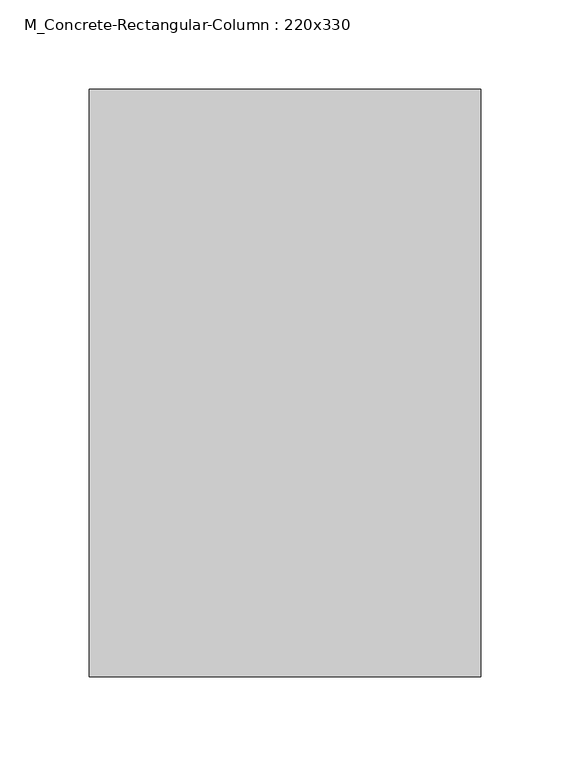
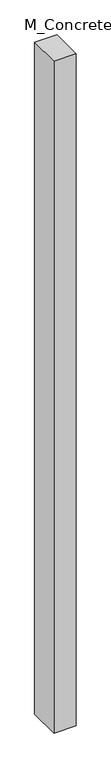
"""IFC4 building model written with IfcOpenShell, lengths in millimetres: column geometry, M_Concrete-Rectangular-Column : 220x330."""

from ifc_helpers import new_model, si_unit, frame, origin, place, context, project, spatial, polyline, outline, extrude, source, transform, mapped, element, save


def m_concrete_rectangular_column_220x330_e0f7005e(model_context):
    return source(origin(), model_context, "Body", "SweptSolid", [
        extrude(outline(polyline([(110.0, 165.0), (110.0, -165.0), (-110.0, -165.0), (-110.0, 165.0), (110.0, 165.0)])), frame((0.0, 0.0, 2500.0), z_axis=(0.0, 0.0, 1.0), x_axis=(1.0, 0.0, 0.0)), (0.0, 0.0, 1.0), 7060.0),
    ])


if __name__ == "__main__":
    model = new_model("IFC4")
    model_context = context("Model", 3, world=origin())
    ifc_project = project(units=[si_unit("LENGTHUNIT", "METRE", prefix="MILLI")], contexts=[model_context])
    site = spatial("IfcSite", under=ifc_project)
    building = spatial("IfcBuilding", under=site)
    placement = place(None, origin())
    m_concrete_rectangular_column_220x330_shape = m_concrete_rectangular_column_220x330_e0f7005e(model_context)
    element("IfcColumn", 1, ObjectType="M_Concrete-Rectangular-Column : 220x330", at=placement, inside=building, context=model_context, shape_type="MappedRepresentation", body=[
        mapped(m_concrete_rectangular_column_220x330_shape, transform((0.0, 0.0, 0.0), x_axis=(1.0, 0.0, 0.0), y_axis=(0.0, 1.0, 0.0), z_axis=(0.0, 0.0, 1.0))),
    ])
    save(model, "model.ifc")
